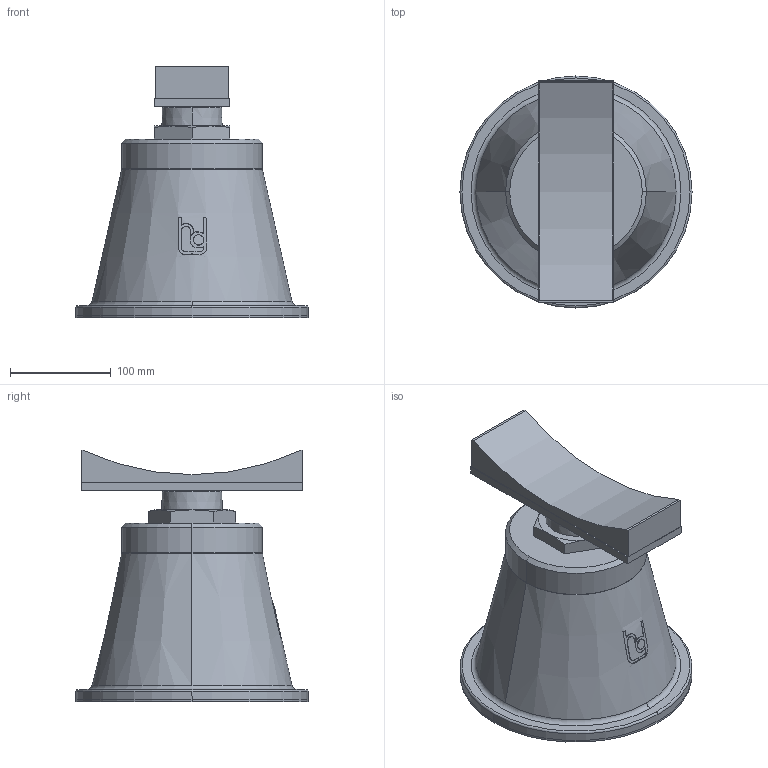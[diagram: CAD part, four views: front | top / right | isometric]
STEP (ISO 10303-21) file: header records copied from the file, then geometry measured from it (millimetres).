
FILE_DESCRIPTION(('STEP AP214'),'1');
FILE_NAME('RSRFN_DN500.stp','2018-06-29T13:12:45',(' '),(' '),'Spatial InterOp 3D',' ',' ');
FILE_SCHEMA(('automotive_design'));
Length unit declared in the file: millimetre
Products named in the file (6): 1; 2; 3; 4; 5; 6
Bounding box: 230 x 230 x 249 mm (x, y, z)
Volume: 4973945.4 mm3; surface area: 400759.1 mm2
Topology: 6 solids, 6 shells, 117 faces, 282 edges, 182 vertices
Faces by surface type: plane 49, cylinder 37, cone 23, torus 8
Entity records: 4852 total; most frequent: CARTESIAN_POINT 1045, DIRECTION 591, ORIENTED_EDGE 564, EDGE_CURVE 282, AXIS2_PLACEMENT_3D 228, VERTEX_POINT 182, LINE 135, VECTOR 135
